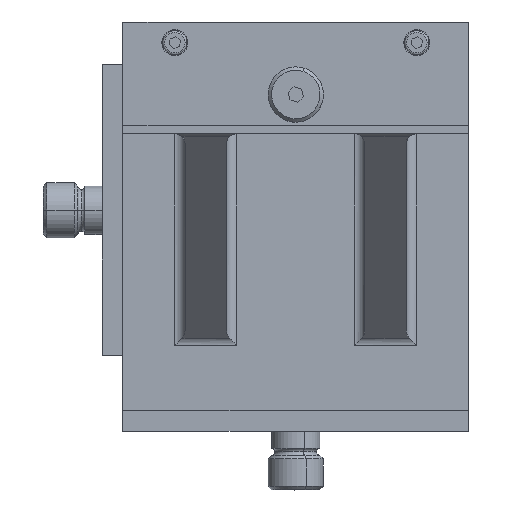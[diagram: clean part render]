
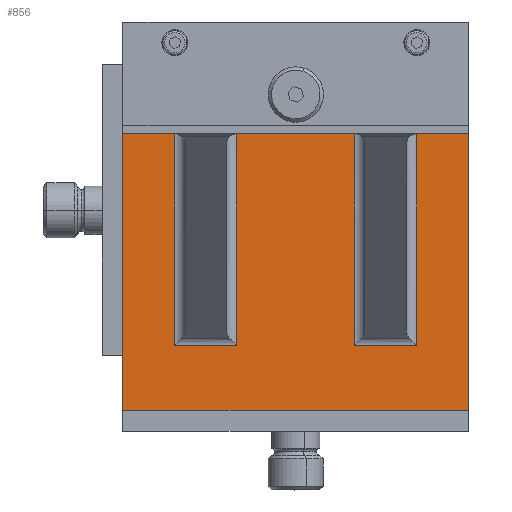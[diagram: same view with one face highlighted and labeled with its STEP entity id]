
A CAD part, top view. The second image highlights one B-rep face of the part: STEP entity #856.
In plain terms, the highlighted planar face has unit normal (0, 0, 1).
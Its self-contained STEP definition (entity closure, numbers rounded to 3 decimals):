
#856=ADVANCED_FACE('',(#2036),#2037,.F.);
#2036=FACE_OUTER_BOUND('',#3700,.T.);
#2037=PLANE('',#3701);
#3700=EDGE_LOOP('',(#5774,#5775,#5776,#5777,#5778,#5779,#5780,#5781,#5782,#5783,#5784,#5785));
#3701=AXIS2_PLACEMENT_3D('',#5786,#5787,#5788);
#5774=ORIENTED_EDGE('',*,*,#9415,.T.);
#5775=ORIENTED_EDGE('',*,*,#9457,.T.);
#5776=ORIENTED_EDGE('',*,*,#9458,.T.);
#5777=ORIENTED_EDGE('',*,*,#9459,.T.);
#5778=ORIENTED_EDGE('',*,*,#9422,.T.);
#5779=ORIENTED_EDGE('',*,*,#9460,.F.);
#5780=ORIENTED_EDGE('',*,*,#9428,.F.);
#5781=ORIENTED_EDGE('',*,*,#9397,.T.);
#5782=ORIENTED_EDGE('',*,*,#9419,.T.);
#5783=ORIENTED_EDGE('',*,*,#9461,.T.);
#5784=ORIENTED_EDGE('',*,*,#9462,.T.);
#5785=ORIENTED_EDGE('',*,*,#9463,.T.);
#5786=CARTESIAN_POINT('',(-100.048,-82.15,-96.0));
#5787=DIRECTION('',(0.0,0.0,-1.0));
#5788=DIRECTION('',(0.0,-1.0,0.0));
#9397=EDGE_CURVE('',#11157,#11155,#11158,.T.);
#9415=EDGE_CURVE('',#11183,#11181,#11184,.T.);
#9419=EDGE_CURVE('',#11155,#11189,#11191,.T.);
#9422=EDGE_CURVE('',#11196,#11194,#11197,.T.);
#9428=EDGE_CURVE('',#11157,#11204,#11205,.T.);
#9457=EDGE_CURVE('',#11181,#11247,#11248,.T.);
#9458=EDGE_CURVE('',#11247,#11249,#11250,.T.);
#9459=EDGE_CURVE('',#11249,#11196,#11251,.T.);
#9460=EDGE_CURVE('',#11204,#11194,#11252,.T.);
#9461=EDGE_CURVE('',#11189,#11253,#11254,.T.);
#9462=EDGE_CURVE('',#11253,#11255,#11256,.T.);
#9463=EDGE_CURVE('',#11255,#11183,#11257,.T.);
#11155=VERTEX_POINT('',#14117);
#11157=VERTEX_POINT('',#14120);
#11158=LINE('',#14121,#14122);
#11181=VERTEX_POINT('',#14241);
#11183=VERTEX_POINT('',#14244);
#11184=LINE('',#14245,#14246);
#11189=VERTEX_POINT('',#14253);
#11191=LINE('',#14256,#14257);
#11194=VERTEX_POINT('',#14261);
#11196=VERTEX_POINT('',#14264);
#11197=LINE('',#14265,#14266);
#11204=VERTEX_POINT('',#14276);
#11205=LINE('',#14277,#14278);
#11247=VERTEX_POINT('',#14338);
#11248=LINE('',#14339,#14340);
#11249=VERTEX_POINT('',#14341);
#11250=LINE('',#14342,#14343);
#11251=LINE('',#14344,#14345);
#11252=LINE('',#14346,#14347);
#11253=VERTEX_POINT('',#14348);
#11254=LINE('',#14349,#14350);
#11255=VERTEX_POINT('',#14351);
#11256=LINE('',#14352,#14353);
#11257=LINE('',#14354,#14355);
#14117=CARTESIAN_POINT('',(-0.048,-2.15,-96.0));
#14120=CARTESIAN_POINT('',(-0.048,-82.15,-96.0));
#14121=CARTESIAN_POINT('',(-0.048,-82.15,-96.0));
#14122=VECTOR('',#17394,1000.0);
#14241=CARTESIAN_POINT('',(-67.048,-2.15,-96.0));
#14244=CARTESIAN_POINT('',(-33.048,-2.15,-96.0));
#14245=CARTESIAN_POINT('',(-0.048,-2.15,-96.0));
#14246=VECTOR('',#17414,1000.0);
#14253=CARTESIAN_POINT('',(-15.048,-2.15,-96.0));
#14256=CARTESIAN_POINT('',(-0.048,-2.15,-96.0));
#14257=VECTOR('',#17418,1000.0);
#14261=CARTESIAN_POINT('',(-100.048,-2.15,-96.0));
#14264=CARTESIAN_POINT('',(-85.048,-2.15,-96.0));
#14265=CARTESIAN_POINT('',(-0.048,-2.15,-96.0));
#14266=VECTOR('',#17421,1000.0);
#14276=CARTESIAN_POINT('',(-100.048,-82.15,-96.0));
#14277=CARTESIAN_POINT('',(-100.048,-82.15,-96.0));
#14278=VECTOR('',#17425,1000.0);
#14338=CARTESIAN_POINT('',(-67.048,-63.393,-96.0));
#14339=CARTESIAN_POINT('',(-67.048,-82.15,-96.0));
#14340=VECTOR('',#17453,1000.0);
#14341=CARTESIAN_POINT('',(-85.048,-63.393,-96.0));
#14342=CARTESIAN_POINT('',(-100.048,-63.393,-96.0));
#14343=VECTOR('',#17454,1000.0);
#14344=CARTESIAN_POINT('',(-85.048,-82.15,-96.0));
#14345=VECTOR('',#17455,1000.0);
#14346=CARTESIAN_POINT('',(-100.048,-82.15,-96.0));
#14347=VECTOR('',#17456,1000.0);
#14348=CARTESIAN_POINT('',(-15.048,-63.393,-96.0));
#14349=CARTESIAN_POINT('',(-15.048,-82.15,-96.0));
#14350=VECTOR('',#17457,1000.0);
#14351=CARTESIAN_POINT('',(-33.048,-63.393,-96.0));
#14352=CARTESIAN_POINT('',(-30.048,-63.393,-96.0));
#14353=VECTOR('',#17458,1000.0);
#14354=CARTESIAN_POINT('',(-33.048,-82.15,-96.0));
#14355=VECTOR('',#17459,1000.0);
#17394=DIRECTION('',(0.,1.0,0.0));
#17414=DIRECTION('',(-1.0,0.,0.0));
#17418=DIRECTION('',(-1.0,0.,0.0));
#17421=DIRECTION('',(-1.0,0.,0.0));
#17425=DIRECTION('',(-1.0,0.,0.0));
#17453=DIRECTION('',(0.,-1.0,0.0));
#17454=DIRECTION('',(-1.0,0.,0.0));
#17455=DIRECTION('',(0.,1.0,0.0));
#17456=DIRECTION('',(0.,1.0,0.0));
#17457=DIRECTION('',(0.,-1.0,0.0));
#17458=DIRECTION('',(-1.0,0.0,0.0));
#17459=DIRECTION('',(0.,1.0,0.0));
